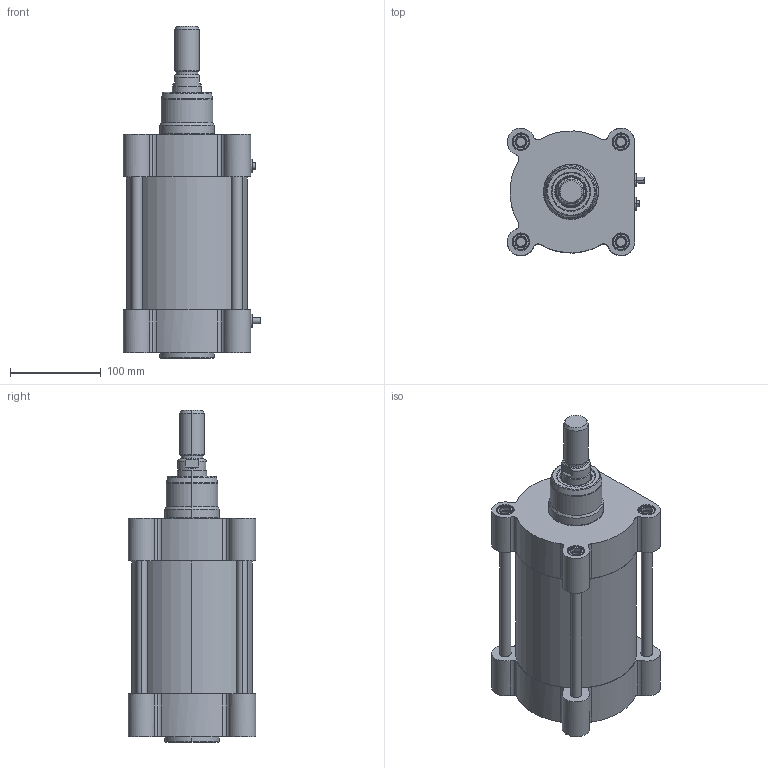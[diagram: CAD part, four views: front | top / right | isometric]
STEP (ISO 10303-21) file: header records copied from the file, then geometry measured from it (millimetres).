
FILE_DESCRIPTION (( 'STEP AP203' ), '1' );
FILE_NAME ('CTMI125-80.STEP', '2020-03-27T10:07:25', ( '' ), ( '' ), 'SwSTEP 2.0', 'SolidWorks 2019', '' );
FILE_SCHEMA (( 'CONFIG_CONTROL_DESIGN' ));
Length unit declared in the file: millimetre
Products named in the file (1): CTMI125-80
Bounding box: 151.09 x 139.99 x 365 mm (x, y, z)
Surface area: 382306.4 mm2 (no closed solid volume)
Topology: 0 solids, 23 shells, 767 faces, 1776 edges, 1092 vertices
Faces by surface type: cone 284, cylinder 218, plane 193, torus 56, bspline 16
Entity records: 35882 total; most frequent: CARTESIAN_POINT 20959, ORIENTED_EDGE 3504, DIRECTION 2178, EDGE_CURVE 1776, B_SPLINE_CURVE_WITH_KNOTS 1176, VERTEX_POINT 1092, AXIS2_PLACEMENT_3D 874, EDGE_LOOP 860
